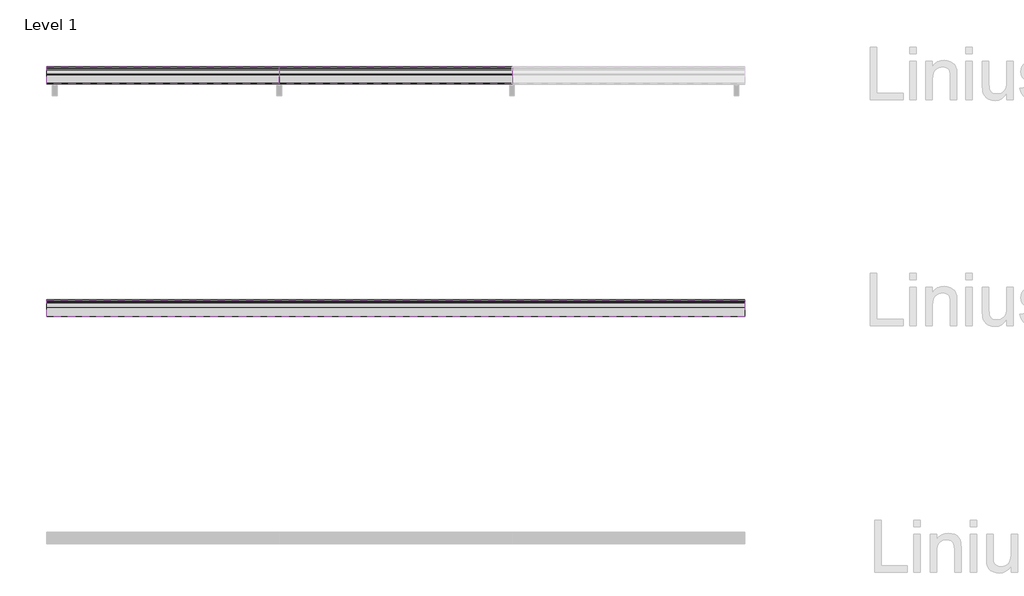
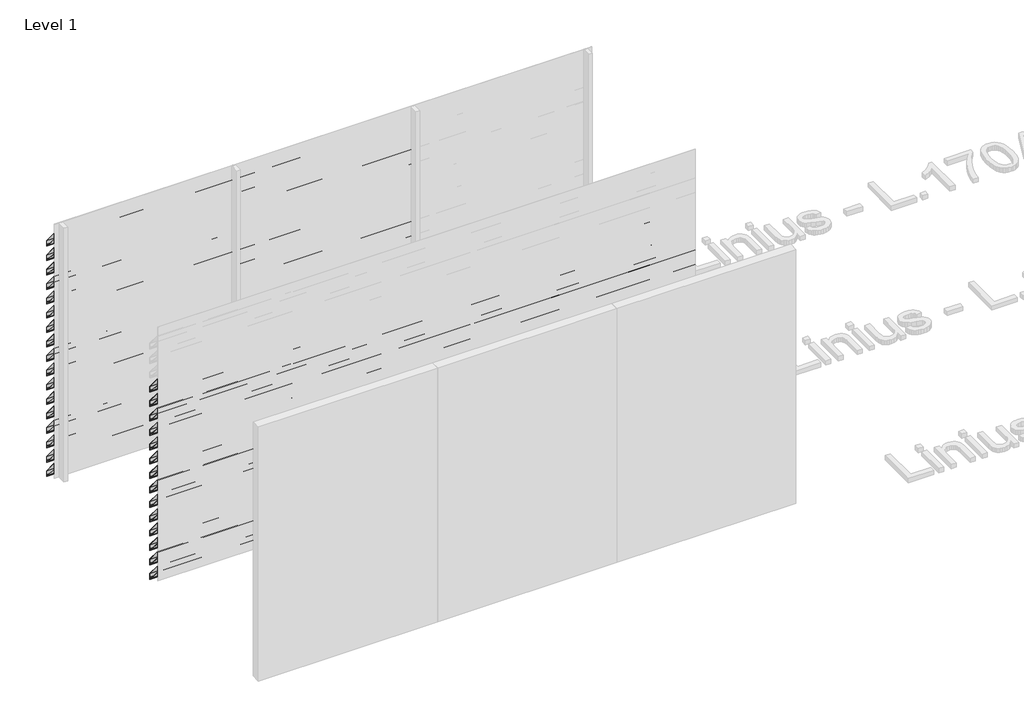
# One storey, part 29 of 121: 48 proxies.
"""IFC4 building model written with IfcOpenShell, lengths in millimetres."""

from ifc_helpers import new_model, si_unit, frame, origin, place, context, project, spatial, polyline, outline, extrude, element, save

model = new_model("IFC4")

# Units and contexts
model_context = context("Model", 3, world=origin())
ifc_project = project(units=[si_unit("LENGTHUNIT", "METRE", prefix="MILLI")], contexts=[model_context])

# Site, building, storey
site = spatial("IfcSite", under=ifc_project)
building = spatial("IfcBuilding", under=site)
storey = spatial("IfcBuildingStorey", under=building, Name="Level 1", Elevation=0.0)

# Proxies
placement = place(None, origin())
element("IfcBuildingElementProxy", 1, Name="Wall Sweeps", at=placement, inside=storey, context=model_context, shape_type="SweptSolid", body=[
    extrude(outline(polyline([(29130.0540136, 2720.0), (29130.0540136, 2651.0), (29127.5540136, 2652.1657691), (29127.5540136, 2665.7059843), (29110.8041465, 2685.6676986), (29100.1189071, 2685.6676986), (28983.0540136, 2825.1802059), (28983.0540136, 2890.0), (28987.4070763, 2890.0), (29130.0540136, 2720.0)]), holes=[polyline([(28986.5210918, 2888.1), (28984.9540136, 2888.1), (28984.9540136, 2825.8717493), (29101.0048916, 2687.5676986), (29111.6901311, 2687.5676986), (29128.1540136, 2667.9468074), (29128.1540136, 2719.3084566), (28986.5210918, 2888.1)])]), frame((44966.6208097, 0.0, 0.0), z_axis=(1.0, 0.0, 0.0), x_axis=(0.0, 1.0, 0.0)), (0.0, 0.0, 1.0), 2000.0),
])
element("IfcBuildingElementProxy", 2, Name="Wall Sweeps", at=placement, inside=storey, context=model_context, shape_type="SweptSolid", body=[
    extrude(outline(polyline([(29130.0540136, 2550.0), (29130.0540136, 2481.0), (29127.5540136, 2482.1657691), (29127.5540136, 2495.7059843), (29110.8041465, 2515.6676986), (29100.1189071, 2515.6676986), (28983.0540136, 2655.1802059), (28983.0540136, 2720.0), (28987.4070763, 2720.0), (29130.0540136, 2550.0)]), holes=[polyline([(28986.5210918, 2718.1), (28984.9540136, 2718.1), (28984.9540136, 2655.8717493), (29101.0048916, 2517.5676986), (29111.6901311, 2517.5676986), (29128.1540136, 2497.9468074), (29128.1540136, 2549.3084566), (28986.5210918, 2718.1)])]), frame((44966.6208097, 0.0, 0.0), z_axis=(1.0, 0.0, 0.0), x_axis=(0.0, 1.0, 0.0)), (0.0, 0.0, 1.0), 2000.0),
])
element("IfcBuildingElementProxy", 3, Name="Wall Sweeps", at=placement, inside=storey, context=model_context, shape_type="SweptSolid", body=[
    extrude(outline(polyline([(29130.0540136, 2380.0), (29130.0540136, 2311.0), (29127.5540136, 2312.1657691), (29127.5540136, 2325.7059843), (29110.8041465, 2345.6676986), (29100.1189071, 2345.6676986), (28983.0540136, 2485.1802059), (28983.0540136, 2550.0), (28987.4070763, 2550.0), (29130.0540136, 2380.0)]), holes=[polyline([(28986.5210918, 2548.1), (28984.9540136, 2548.1), (28984.9540136, 2485.8717493), (29101.0048916, 2347.5676986), (29111.6901311, 2347.5676986), (29128.1540136, 2327.9468074), (29128.1540136, 2379.3084566), (28986.5210918, 2548.1)])]), frame((44966.6208097, 0.0, 0.0), z_axis=(1.0, 0.0, 0.0), x_axis=(0.0, 1.0, 0.0)), (0.0, 0.0, 1.0), 2000.0),
])
element("IfcBuildingElementProxy", 4, Name="Wall Sweeps", at=placement, inside=storey, context=model_context, shape_type="SweptSolid", body=[
    extrude(outline(polyline([(29130.0540136, 2210.0), (29130.0540136, 2141.0), (29127.5540136, 2142.1657691), (29127.5540136, 2155.7059843), (29110.8041465, 2175.6676986), (29100.1189071, 2175.6676986), (28983.0540136, 2315.1802059), (28983.0540136, 2380.0), (28987.4070763, 2380.0), (29130.0540136, 2210.0)]), holes=[polyline([(28986.5210918, 2378.1), (28984.9540136, 2378.1), (28984.9540136, 2315.8717493), (29101.0048916, 2177.5676986), (29111.6901311, 2177.5676986), (29128.1540136, 2157.9468074), (29128.1540136, 2209.3084566), (28986.5210918, 2378.1)])]), frame((44966.6208097, 0.0, 0.0), z_axis=(1.0, 0.0, 0.0), x_axis=(0.0, 1.0, 0.0)), (0.0, 0.0, 1.0), 2000.0),
])
element("IfcBuildingElementProxy", 5, Name="Wall Sweeps", at=placement, inside=storey, context=model_context, shape_type="SweptSolid", body=[
    extrude(outline(polyline([(29130.0540136, 2040.0), (29130.0540136, 1971.0), (29127.5540136, 1972.1657691), (29127.5540136, 1985.7059843), (29110.8041465, 2005.6676986), (29100.1189071, 2005.6676986), (28983.0540136, 2145.1802059), (28983.0540136, 2210.0), (28987.4070763, 2210.0), (29130.0540136, 2040.0)]), holes=[polyline([(28986.5210918, 2208.1), (28984.9540136, 2208.1), (28984.9540136, 2145.8717493), (29101.0048916, 2007.5676986), (29111.6901311, 2007.5676986), (29128.1540136, 1987.9468074), (29128.1540136, 2039.3084566), (28986.5210918, 2208.1)])]), frame((44966.6208097, 0.0, 0.0), z_axis=(1.0, 0.0, 0.0), x_axis=(0.0, 1.0, 0.0)), (0.0, 0.0, 1.0), 2000.0),
])
element("IfcBuildingElementProxy", 6, Name="Wall Sweeps", at=placement, inside=storey, context=model_context, shape_type="SweptSolid", body=[
    extrude(outline(polyline([(29130.0540136, 1870.0), (29130.0540136, 1801.0), (29127.5540136, 1802.1657691), (29127.5540136, 1815.7059843), (29110.8041465, 1835.6676986), (29100.1189071, 1835.6676986), (28983.0540136, 1975.1802059), (28983.0540136, 2040.0), (28987.4070763, 2040.0), (29130.0540136, 1870.0)]), holes=[polyline([(28986.5210918, 2038.1), (28984.9540136, 2038.1), (28984.9540136, 1975.8717493), (29101.0048916, 1837.5676986), (29111.6901311, 1837.5676986), (29128.1540136, 1817.9468074), (29128.1540136, 1869.3084566), (28986.5210918, 2038.1)])]), frame((44966.6208097, 0.0, 0.0), z_axis=(1.0, 0.0, 0.0), x_axis=(0.0, 1.0, 0.0)), (0.0, 0.0, 1.0), 2000.0),
])
element("IfcBuildingElementProxy", 7, Name="Wall Sweeps", at=placement, inside=storey, context=model_context, shape_type="SweptSolid", body=[
    extrude(outline(polyline([(29130.0540136, 1700.0), (29130.0540136, 1631.0), (29127.5540136, 1632.1657691), (29127.5540136, 1645.7059843), (29110.8041465, 1665.6676986), (29100.1189071, 1665.6676986), (28983.0540136, 1805.1802059), (28983.0540136, 1870.0), (28987.4070763, 1870.0), (29130.0540136, 1700.0)]), holes=[polyline([(28986.5210918, 1868.1), (28984.9540136, 1868.1), (28984.9540136, 1805.8717493), (29101.0048916, 1667.5676986), (29111.6901311, 1667.5676986), (29128.1540136, 1647.9468074), (29128.1540136, 1699.3084566), (28986.5210918, 1868.1)])]), frame((44966.6208097, 0.0, 0.0), z_axis=(1.0, 0.0, 0.0), x_axis=(0.0, 1.0, 0.0)), (0.0, 0.0, 1.0), 2000.0),
])
element("IfcBuildingElementProxy", 8, Name="Wall Sweeps", at=placement, inside=storey, context=model_context, shape_type="SweptSolid", body=[
    extrude(outline(polyline([(29130.0540136, 1530.0), (29130.0540136, 1461.0), (29127.5540136, 1462.1657691), (29127.5540136, 1475.7059843), (29110.8041465, 1495.6676986), (29100.1189071, 1495.6676986), (28983.0540136, 1635.1802059), (28983.0540136, 1700.0), (28987.4070763, 1700.0), (29130.0540136, 1530.0)]), holes=[polyline([(28986.5210918, 1698.1), (28984.9540136, 1698.1), (28984.9540136, 1635.8717493), (29101.0048916, 1497.5676986), (29111.6901311, 1497.5676986), (29128.1540136, 1477.9468074), (29128.1540136, 1529.3084566), (28986.5210918, 1698.1)])]), frame((44966.6208097, 0.0, 0.0), z_axis=(1.0, 0.0, 0.0), x_axis=(0.0, 1.0, 0.0)), (0.0, 0.0, 1.0), 2000.0),
])
element("IfcBuildingElementProxy", 9, Name="Wall Sweeps", at=placement, inside=storey, context=model_context, shape_type="SweptSolid", body=[
    extrude(outline(polyline([(29130.0540136, 1360.0), (29130.0540136, 1291.0), (29127.5540136, 1292.1657691), (29127.5540136, 1305.7059843), (29110.8041465, 1325.6676986), (29100.1189071, 1325.6676986), (28983.0540136, 1465.1802059), (28983.0540136, 1530.0), (28987.4070763, 1530.0), (29130.0540136, 1360.0)]), holes=[polyline([(28986.5210918, 1528.1), (28984.9540136, 1528.1), (28984.9540136, 1465.8717493), (29101.0048916, 1327.5676986), (29111.6901311, 1327.5676986), (29128.1540136, 1307.9468074), (29128.1540136, 1359.3084566), (28986.5210918, 1528.1)])]), frame((44966.6208097, 0.0, 0.0), z_axis=(1.0, 0.0, 0.0), x_axis=(0.0, 1.0, 0.0)), (0.0, 0.0, 1.0), 2000.0),
])
element("IfcBuildingElementProxy", 10, Name="Wall Sweeps", at=placement, inside=storey, context=model_context, shape_type="SweptSolid", body=[
    extrude(outline(polyline([(29130.0540136, 1190.0), (29130.0540136, 1121.0), (29127.5540136, 1122.1657691), (29127.5540136, 1135.7059843), (29110.8041465, 1155.6676986), (29100.1189071, 1155.6676986), (28983.0540136, 1295.1802059), (28983.0540136, 1360.0), (28987.4070763, 1360.0), (29130.0540136, 1190.0)]), holes=[polyline([(28986.5210918, 1358.1), (28984.9540136, 1358.1), (28984.9540136, 1295.8717493), (29101.0048916, 1157.5676986), (29111.6901311, 1157.5676986), (29128.1540136, 1137.9468074), (29128.1540136, 1189.3084566), (28986.5210918, 1358.1)])]), frame((44966.6208097, 0.0, 0.0), z_axis=(1.0, 0.0, 0.0), x_axis=(0.0, 1.0, 0.0)), (0.0, 0.0, 1.0), 2000.0),
])
element("IfcBuildingElementProxy", 11, Name="Wall Sweeps", at=placement, inside=storey, context=model_context, shape_type="SweptSolid", body=[
    extrude(outline(polyline([(29130.0540136, 1020.0), (29130.0540136, 951.0), (29127.5540136, 952.1657691), (29127.5540136, 965.7059843), (29110.8041465, 985.6676986), (29100.1189071, 985.6676986), (28983.0540136, 1125.1802059), (28983.0540136, 1190.0), (28987.4070763, 1190.0), (29130.0540136, 1020.0)]), holes=[polyline([(28986.5210918, 1188.1), (28984.9540136, 1188.1), (28984.9540136, 1125.8717493), (29101.0048916, 987.5676986), (29111.6901311, 987.5676986), (29128.1540136, 967.9468074), (29128.1540136, 1019.3084566), (28986.5210918, 1188.1)])]), frame((44966.6208097, 0.0, 0.0), z_axis=(1.0, 0.0, 0.0), x_axis=(0.0, 1.0, 0.0)), (0.0, 0.0, 1.0), 2000.0),
])
element("IfcBuildingElementProxy", 12, Name="Wall Sweeps", at=placement, inside=storey, context=model_context, shape_type="SweptSolid", body=[
    extrude(outline(polyline([(29130.0540136, 850.0), (29130.0540136, 781.0), (29127.5540136, 782.1657691), (29127.5540136, 795.7059843), (29110.8041465, 815.6676986), (29100.1189071, 815.6676986), (28983.0540136, 955.1802059), (28983.0540136, 1020.0), (28987.4070763, 1020.0), (29130.0540136, 850.0)]), holes=[polyline([(28986.5210918, 1018.1), (28984.9540136, 1018.1), (28984.9540136, 955.8717493), (29101.0048916, 817.5676986), (29111.6901311, 817.5676986), (29128.1540136, 797.9468074), (29128.1540136, 849.3084566), (28986.5210918, 1018.1)])]), frame((44966.6208097, 0.0, 0.0), z_axis=(1.0, 0.0, 0.0), x_axis=(0.0, 1.0, 0.0)), (0.0, 0.0, 1.0), 2000.0),
])
element("IfcBuildingElementProxy", 13, Name="Wall Sweeps", at=placement, inside=storey, context=model_context, shape_type="SweptSolid", body=[
    extrude(outline(polyline([(29130.0540136, 680.0), (29130.0540136, 611.0), (29127.5540136, 612.1657691), (29127.5540136, 625.7059843), (29110.8041465, 645.6676986), (29100.1189071, 645.6676986), (28983.0540136, 785.1802059), (28983.0540136, 850.0), (28987.4070763, 850.0), (29130.0540136, 680.0)]), holes=[polyline([(28986.5210918, 848.1), (28984.9540136, 848.1), (28984.9540136, 785.8717493), (29101.0048916, 647.5676986), (29111.6901311, 647.5676986), (29128.1540136, 627.9468074), (29128.1540136, 679.3084566), (28986.5210918, 848.1)])]), frame((44966.6208097, 0.0, 0.0), z_axis=(1.0, 0.0, 0.0), x_axis=(0.0, 1.0, 0.0)), (0.0, 0.0, 1.0), 2000.0),
])
element("IfcBuildingElementProxy", 14, Name="Wall Sweeps", at=placement, inside=storey, context=model_context, shape_type="SweptSolid", body=[
    extrude(outline(polyline([(29130.0540136, 510.0), (29130.0540136, 441.0), (29127.5540136, 442.1657691), (29127.5540136, 455.7059843), (29110.8041465, 475.6676986), (29100.1189071, 475.6676986), (28983.0540136, 615.1802059), (28983.0540136, 680.0), (28987.4070763, 680.0), (29130.0540136, 510.0)]), holes=[polyline([(28986.5210918, 678.1), (28984.9540136, 678.1), (28984.9540136, 615.8717493), (29101.0048916, 477.5676986), (29111.6901311, 477.5676986), (29128.1540136, 457.9468074), (29128.1540136, 509.3084566), (28986.5210918, 678.1)])]), frame((44966.6208097, 0.0, 0.0), z_axis=(1.0, 0.0, 0.0), x_axis=(0.0, 1.0, 0.0)), (0.0, 0.0, 1.0), 2000.0),
])
element("IfcBuildingElementProxy", 15, Name="Wall Sweeps", at=placement, inside=storey, context=model_context, shape_type="SweptSolid", body=[
    extrude(outline(polyline([(29130.0540136, 340.0), (29130.0540136, 271.0), (29127.5540136, 272.1657691), (29127.5540136, 285.7059843), (29110.8041465, 305.6676986), (29100.1189071, 305.6676986), (28983.0540136, 445.1802059), (28983.0540136, 510.0), (28987.4070763, 510.0), (29130.0540136, 340.0)]), holes=[polyline([(28986.5210918, 508.1), (28984.9540136, 508.1), (28984.9540136, 445.8717493), (29101.0048916, 307.5676986), (29111.6901311, 307.5676986), (29128.1540136, 287.9468074), (29128.1540136, 339.3084566), (28986.5210918, 508.1)])]), frame((44966.6208097, 0.0, 0.0), z_axis=(1.0, 0.0, 0.0), x_axis=(0.0, 1.0, 0.0)), (0.0, 0.0, 1.0), 2000.0),
])
element("IfcBuildingElementProxy", 16, Name="Wall Sweeps", at=placement, inside=storey, context=model_context, shape_type="SweptSolid", body=[
    extrude(outline(polyline([(29130.0540136, 170.0), (29130.0540136, 101.0), (29127.5540136, 102.1657691), (29127.5540136, 115.7059843), (29110.8041465, 135.6676986), (29100.1189071, 135.6676986), (28983.0540136, 275.1802059), (28983.0540136, 340.0), (28987.4070763, 340.0), (29130.0540136, 170.0)]), holes=[polyline([(28986.5210918, 338.1), (28984.9540136, 338.1), (28984.9540136, 275.8717493), (29101.0048916, 137.5676986), (29111.6901311, 137.5676986), (29128.1540136, 117.9468074), (29128.1540136, 169.3084566), (28986.5210918, 338.1)])]), frame((44966.6208097, 0.0, 0.0), z_axis=(1.0, 0.0, 0.0), x_axis=(0.0, 1.0, 0.0)), (0.0, 0.0, 1.0), 2000.0),
])
element("IfcBuildingElementProxy", 17, Name="Wall Sweeps", at=placement, inside=storey, context=model_context, shape_type="SweptSolid", body=[
    extrude(outline(polyline([(29130.0540136, 0.0), (29130.0540136, -69.0), (29127.5540136, -67.8342309), (29127.5540136, -54.2940157), (29110.8041465, -34.3323014), (29100.1189071, -34.3323014), (28983.0540136, 105.1802059), (28983.0540136, 170.0), (28987.4070763, 170.0), (29130.0540136, 0.0)]), holes=[polyline([(28986.5210918, 168.1), (28984.9540136, 168.1), (28984.9540136, 105.8717493), (29101.0048916, -32.4323014), (29111.6901311, -32.4323014), (29128.1540136, -52.0531926), (29128.1540136, -0.6915434), (28986.5210918, 168.1)])]), frame((44966.6208097, 0.0, 0.0), z_axis=(1.0, 0.0, 0.0), x_axis=(0.0, 1.0, 0.0)), (0.0, 0.0, 1.0), 2000.0),
])
element("IfcBuildingElementProxy", 18, Name="Wall Sweeps", at=placement, inside=storey, context=model_context, shape_type="SweptSolid", body=[
    extrude(outline(polyline([(29130.0540136, 2720.0), (29130.0540136, 2651.0), (29127.5540136, 2652.1657691), (29127.5540136, 2665.7059843), (29110.8041465, 2685.6676986), (29100.1189071, 2685.6676986), (28983.0540136, 2825.1802059), (28983.0540136, 2890.0), (28987.4070763, 2890.0), (29130.0540136, 2720.0)]), holes=[polyline([(28986.5210918, 2888.1), (28984.9540136, 2888.1), (28984.9540136, 2825.8717493), (29101.0048916, 2687.5676986), (29111.6901311, 2687.5676986), (29128.1540136, 2667.9468074), (29128.1540136, 2719.3084566), (28986.5210918, 2888.1)])]), frame((46966.6208097, 0.0, 0.0), z_axis=(1.0, 0.0, 0.0), x_axis=(0.0, 1.0, 0.0)), (0.0, 0.0, 1.0), 2000.0),
])
element("IfcBuildingElementProxy", 19, Name="Wall Sweeps", at=placement, inside=storey, context=model_context, shape_type="SweptSolid", body=[
    extrude(outline(polyline([(29130.0540136, 2550.0), (29130.0540136, 2481.0), (29127.5540136, 2482.1657691), (29127.5540136, 2495.7059843), (29110.8041465, 2515.6676986), (29100.1189071, 2515.6676986), (28983.0540136, 2655.1802059), (28983.0540136, 2720.0), (28987.4070763, 2720.0), (29130.0540136, 2550.0)]), holes=[polyline([(28986.5210918, 2718.1), (28984.9540136, 2718.1), (28984.9540136, 2655.8717493), (29101.0048916, 2517.5676986), (29111.6901311, 2517.5676986), (29128.1540136, 2497.9468074), (29128.1540136, 2549.3084566), (28986.5210918, 2718.1)])]), frame((46966.6208097, 0.0, 0.0), z_axis=(1.0, 0.0, 0.0), x_axis=(0.0, 1.0, 0.0)), (0.0, 0.0, 1.0), 2000.0),
])
element("IfcBuildingElementProxy", 20, Name="Wall Sweeps", at=placement, inside=storey, context=model_context, shape_type="SweptSolid", body=[
    extrude(outline(polyline([(29130.0540136, 2380.0), (29130.0540136, 2311.0), (29127.5540136, 2312.1657691), (29127.5540136, 2325.7059843), (29110.8041465, 2345.6676986), (29100.1189071, 2345.6676986), (28983.0540136, 2485.1802059), (28983.0540136, 2550.0), (28987.4070763, 2550.0), (29130.0540136, 2380.0)]), holes=[polyline([(28986.5210918, 2548.1), (28984.9540136, 2548.1), (28984.9540136, 2485.8717493), (29101.0048916, 2347.5676986), (29111.6901311, 2347.5676986), (29128.1540136, 2327.9468074), (29128.1540136, 2379.3084566), (28986.5210918, 2548.1)])]), frame((46966.6208097, 0.0, 0.0), z_axis=(1.0, 0.0, 0.0), x_axis=(0.0, 1.0, 0.0)), (0.0, 0.0, 1.0), 2000.0),
])
element("IfcBuildingElementProxy", 21, Name="Wall Sweeps", at=placement, inside=storey, context=model_context, shape_type="SweptSolid", body=[
    extrude(outline(polyline([(29130.0540136, 2210.0), (29130.0540136, 2141.0), (29127.5540136, 2142.1657691), (29127.5540136, 2155.7059843), (29110.8041465, 2175.6676986), (29100.1189071, 2175.6676986), (28983.0540136, 2315.1802059), (28983.0540136, 2380.0), (28987.4070763, 2380.0), (29130.0540136, 2210.0)]), holes=[polyline([(28986.5210918, 2378.1), (28984.9540136, 2378.1), (28984.9540136, 2315.8717493), (29101.0048916, 2177.5676986), (29111.6901311, 2177.5676986), (29128.1540136, 2157.9468074), (29128.1540136, 2209.3084566), (28986.5210918, 2378.1)])]), frame((46966.6208097, 0.0, 0.0), z_axis=(1.0, 0.0, 0.0), x_axis=(0.0, 1.0, 0.0)), (0.0, 0.0, 1.0), 2000.0),
])
element("IfcBuildingElementProxy", 22, Name="Wall Sweeps", at=placement, inside=storey, context=model_context, shape_type="SweptSolid", body=[
    extrude(outline(polyline([(29130.0540136, 2040.0), (29130.0540136, 1971.0), (29127.5540136, 1972.1657691), (29127.5540136, 1985.7059843), (29110.8041465, 2005.6676986), (29100.1189071, 2005.6676986), (28983.0540136, 2145.1802059), (28983.0540136, 2210.0), (28987.4070763, 2210.0), (29130.0540136, 2040.0)]), holes=[polyline([(28986.5210918, 2208.1), (28984.9540136, 2208.1), (28984.9540136, 2145.8717493), (29101.0048916, 2007.5676986), (29111.6901311, 2007.5676986), (29128.1540136, 1987.9468074), (29128.1540136, 2039.3084566), (28986.5210918, 2208.1)])]), frame((46966.6208097, 0.0, 0.0), z_axis=(1.0, 0.0, 0.0), x_axis=(0.0, 1.0, 0.0)), (0.0, 0.0, 1.0), 2000.0),
])
element("IfcBuildingElementProxy", 23, Name="Wall Sweeps", at=placement, inside=storey, context=model_context, shape_type="SweptSolid", body=[
    extrude(outline(polyline([(29130.0540136, 1870.0), (29130.0540136, 1801.0), (29127.5540136, 1802.1657691), (29127.5540136, 1815.7059843), (29110.8041465, 1835.6676986), (29100.1189071, 1835.6676986), (28983.0540136, 1975.1802059), (28983.0540136, 2040.0), (28987.4070763, 2040.0), (29130.0540136, 1870.0)]), holes=[polyline([(28986.5210918, 2038.1), (28984.9540136, 2038.1), (28984.9540136, 1975.8717493), (29101.0048916, 1837.5676986), (29111.6901311, 1837.5676986), (29128.1540136, 1817.9468074), (29128.1540136, 1869.3084566), (28986.5210918, 2038.1)])]), frame((46966.6208097, 0.0, 0.0), z_axis=(1.0, 0.0, 0.0), x_axis=(0.0, 1.0, 0.0)), (0.0, 0.0, 1.0), 2000.0),
])
element("IfcBuildingElementProxy", 24, Name="Wall Sweeps", at=placement, inside=storey, context=model_context, shape_type="SweptSolid", body=[
    extrude(outline(polyline([(29130.0540136, 1700.0), (29130.0540136, 1631.0), (29127.5540136, 1632.1657691), (29127.5540136, 1645.7059843), (29110.8041465, 1665.6676986), (29100.1189071, 1665.6676986), (28983.0540136, 1805.1802059), (28983.0540136, 1870.0), (28987.4070763, 1870.0), (29130.0540136, 1700.0)]), holes=[polyline([(28986.5210918, 1868.1), (28984.9540136, 1868.1), (28984.9540136, 1805.8717493), (29101.0048916, 1667.5676986), (29111.6901311, 1667.5676986), (29128.1540136, 1647.9468074), (29128.1540136, 1699.3084566), (28986.5210918, 1868.1)])]), frame((46966.6208097, 0.0, 0.0), z_axis=(1.0, 0.0, 0.0), x_axis=(0.0, 1.0, 0.0)), (0.0, 0.0, 1.0), 2000.0),
])
element("IfcBuildingElementProxy", 25, Name="Wall Sweeps", at=placement, inside=storey, context=model_context, shape_type="SweptSolid", body=[
    extrude(outline(polyline([(29130.0540136, 1530.0), (29130.0540136, 1461.0), (29127.5540136, 1462.1657691), (29127.5540136, 1475.7059843), (29110.8041465, 1495.6676986), (29100.1189071, 1495.6676986), (28983.0540136, 1635.1802059), (28983.0540136, 1700.0), (28987.4070763, 1700.0), (29130.0540136, 1530.0)]), holes=[polyline([(28986.5210918, 1698.1), (28984.9540136, 1698.1), (28984.9540136, 1635.8717493), (29101.0048916, 1497.5676986), (29111.6901311, 1497.5676986), (29128.1540136, 1477.9468074), (29128.1540136, 1529.3084566), (28986.5210918, 1698.1)])]), frame((46966.6208097, 0.0, 0.0), z_axis=(1.0, 0.0, 0.0), x_axis=(0.0, 1.0, 0.0)), (0.0, 0.0, 1.0), 2000.0),
])
element("IfcBuildingElementProxy", 26, Name="Wall Sweeps", at=placement, inside=storey, context=model_context, shape_type="SweptSolid", body=[
    extrude(outline(polyline([(29130.0540136, 1360.0), (29130.0540136, 1291.0), (29127.5540136, 1292.1657691), (29127.5540136, 1305.7059843), (29110.8041465, 1325.6676986), (29100.1189071, 1325.6676986), (28983.0540136, 1465.1802059), (28983.0540136, 1530.0), (28987.4070763, 1530.0), (29130.0540136, 1360.0)]), holes=[polyline([(28986.5210918, 1528.1), (28984.9540136, 1528.1), (28984.9540136, 1465.8717493), (29101.0048916, 1327.5676986), (29111.6901311, 1327.5676986), (29128.1540136, 1307.9468074), (29128.1540136, 1359.3084566), (28986.5210918, 1528.1)])]), frame((46966.6208097, 0.0, 0.0), z_axis=(1.0, 0.0, 0.0), x_axis=(0.0, 1.0, 0.0)), (0.0, 0.0, 1.0), 2000.0),
])
element("IfcBuildingElementProxy", 27, Name="Wall Sweeps", at=placement, inside=storey, context=model_context, shape_type="SweptSolid", body=[
    extrude(outline(polyline([(29130.0540136, 1190.0), (29130.0540136, 1121.0), (29127.5540136, 1122.1657691), (29127.5540136, 1135.7059843), (29110.8041465, 1155.6676986), (29100.1189071, 1155.6676986), (28983.0540136, 1295.1802059), (28983.0540136, 1360.0), (28987.4070763, 1360.0), (29130.0540136, 1190.0)]), holes=[polyline([(28986.5210918, 1358.1), (28984.9540136, 1358.1), (28984.9540136, 1295.8717493), (29101.0048916, 1157.5676986), (29111.6901311, 1157.5676986), (29128.1540136, 1137.9468074), (29128.1540136, 1189.3084566), (28986.5210918, 1358.1)])]), frame((46966.6208097, 0.0, 0.0), z_axis=(1.0, 0.0, 0.0), x_axis=(0.0, 1.0, 0.0)), (0.0, 0.0, 1.0), 2000.0),
])
element("IfcBuildingElementProxy", 28, Name="Wall Sweeps", at=placement, inside=storey, context=model_context, shape_type="SweptSolid", body=[
    extrude(outline(polyline([(29130.0540136, 1020.0), (29130.0540136, 951.0), (29127.5540136, 952.1657691), (29127.5540136, 965.7059843), (29110.8041465, 985.6676986), (29100.1189071, 985.6676986), (28983.0540136, 1125.1802059), (28983.0540136, 1190.0), (28987.4070763, 1190.0), (29130.0540136, 1020.0)]), holes=[polyline([(28986.5210918, 1188.1), (28984.9540136, 1188.1), (28984.9540136, 1125.8717493), (29101.0048916, 987.5676986), (29111.6901311, 987.5676986), (29128.1540136, 967.9468074), (29128.1540136, 1019.3084566), (28986.5210918, 1188.1)])]), frame((46966.6208097, 0.0, 0.0), z_axis=(1.0, 0.0, 0.0), x_axis=(0.0, 1.0, 0.0)), (0.0, 0.0, 1.0), 2000.0),
])
element("IfcBuildingElementProxy", 29, Name="Wall Sweeps", at=placement, inside=storey, context=model_context, shape_type="SweptSolid", body=[
    extrude(outline(polyline([(29130.0540136, 850.0), (29130.0540136, 781.0), (29127.5540136, 782.1657691), (29127.5540136, 795.7059843), (29110.8041465, 815.6676986), (29100.1189071, 815.6676986), (28983.0540136, 955.1802059), (28983.0540136, 1020.0), (28987.4070763, 1020.0), (29130.0540136, 850.0)]), holes=[polyline([(28986.5210918, 1018.1), (28984.9540136, 1018.1), (28984.9540136, 955.8717493), (29101.0048916, 817.5676986), (29111.6901311, 817.5676986), (29128.1540136, 797.9468074), (29128.1540136, 849.3084566), (28986.5210918, 1018.1)])]), frame((46966.6208097, 0.0, 0.0), z_axis=(1.0, 0.0, 0.0), x_axis=(0.0, 1.0, 0.0)), (0.0, 0.0, 1.0), 2000.0),
])
element("IfcBuildingElementProxy", 30, Name="Wall Sweeps", at=placement, inside=storey, context=model_context, shape_type="SweptSolid", body=[
    extrude(outline(polyline([(29130.0540136, 680.0), (29130.0540136, 611.0), (29127.5540136, 612.1657691), (29127.5540136, 625.7059843), (29110.8041465, 645.6676986), (29100.1189071, 645.6676986), (28983.0540136, 785.1802059), (28983.0540136, 850.0), (28987.4070763, 850.0), (29130.0540136, 680.0)]), holes=[polyline([(28986.5210918, 848.1), (28984.9540136, 848.1), (28984.9540136, 785.8717493), (29101.0048916, 647.5676986), (29111.6901311, 647.5676986), (29128.1540136, 627.9468074), (29128.1540136, 679.3084566), (28986.5210918, 848.1)])]), frame((46966.6208097, 0.0, 0.0), z_axis=(1.0, 0.0, 0.0), x_axis=(0.0, 1.0, 0.0)), (0.0, 0.0, 1.0), 2000.0),
])
element("IfcBuildingElementProxy", 31, Name="Wall Sweeps", at=placement, inside=storey, context=model_context, shape_type="SweptSolid", body=[
    extrude(outline(polyline([(29130.0540136, 510.0), (29130.0540136, 441.0), (29127.5540136, 442.1657691), (29127.5540136, 455.7059843), (29110.8041465, 475.6676986), (29100.1189071, 475.6676986), (28983.0540136, 615.1802059), (28983.0540136, 680.0), (28987.4070763, 680.0), (29130.0540136, 510.0)]), holes=[polyline([(28986.5210918, 678.1), (28984.9540136, 678.1), (28984.9540136, 615.8717493), (29101.0048916, 477.5676986), (29111.6901311, 477.5676986), (29128.1540136, 457.9468074), (29128.1540136, 509.3084566), (28986.5210918, 678.1)])]), frame((46966.6208097, 0.0, 0.0), z_axis=(1.0, 0.0, 0.0), x_axis=(0.0, 1.0, 0.0)), (0.0, 0.0, 1.0), 2000.0),
])
element("IfcBuildingElementProxy", 32, Name="Wall Sweeps", at=placement, inside=storey, context=model_context, shape_type="SweptSolid", body=[
    extrude(outline(polyline([(29130.0540136, 340.0), (29130.0540136, 271.0), (29127.5540136, 272.1657691), (29127.5540136, 285.7059843), (29110.8041465, 305.6676986), (29100.1189071, 305.6676986), (28983.0540136, 445.1802059), (28983.0540136, 510.0), (28987.4070763, 510.0), (29130.0540136, 340.0)]), holes=[polyline([(28986.5210918, 508.1), (28984.9540136, 508.1), (28984.9540136, 445.8717493), (29101.0048916, 307.5676986), (29111.6901311, 307.5676986), (29128.1540136, 287.9468074), (29128.1540136, 339.3084566), (28986.5210918, 508.1)])]), frame((46966.6208097, 0.0, 0.0), z_axis=(1.0, 0.0, 0.0), x_axis=(0.0, 1.0, 0.0)), (0.0, 0.0, 1.0), 2000.0),
])
element("IfcBuildingElementProxy", 33, Name="Wall Sweeps", at=placement, inside=storey, context=model_context, shape_type="SweptSolid", body=[
    extrude(outline(polyline([(29130.0540136, 170.0), (29130.0540136, 101.0), (29127.5540136, 102.1657691), (29127.5540136, 115.7059843), (29110.8041465, 135.6676986), (29100.1189071, 135.6676986), (28983.0540136, 275.1802059), (28983.0540136, 340.0), (28987.4070763, 340.0), (29130.0540136, 170.0)]), holes=[polyline([(28986.5210918, 338.1), (28984.9540136, 338.1), (28984.9540136, 275.8717493), (29101.0048916, 137.5676986), (29111.6901311, 137.5676986), (29128.1540136, 117.9468074), (29128.1540136, 169.3084566), (28986.5210918, 338.1)])]), frame((46966.6208097, 0.0, 0.0), z_axis=(1.0, 0.0, 0.0), x_axis=(0.0, 1.0, 0.0)), (0.0, 0.0, 1.0), 2000.0),
])
element("IfcBuildingElementProxy", 34, Name="Wall Sweeps", at=placement, inside=storey, context=model_context, shape_type="SweptSolid", body=[
    extrude(outline(polyline([(29130.0540136, 0.0), (29130.0540136, -69.0), (29127.5540136, -67.8342309), (29127.5540136, -54.2940157), (29110.8041465, -34.3323014), (29100.1189071, -34.3323014), (28983.0540136, 105.1802059), (28983.0540136, 170.0), (28987.4070763, 170.0), (29130.0540136, 0.0)]), holes=[polyline([(28986.5210918, 168.1), (28984.9540136, 168.1), (28984.9540136, 105.8717493), (29101.0048916, -32.4323014), (29111.6901311, -32.4323014), (29128.1540136, -52.0531926), (29128.1540136, -0.6915434), (28986.5210918, 168.1)])]), frame((46966.6208097, 0.0, 0.0), z_axis=(1.0, 0.0, 0.0), x_axis=(0.0, 1.0, 0.0)), (0.0, 0.0, 1.0), 2000.0),
])
element("IfcBuildingElementProxy", 35, Name="Wall Sweeps", at=placement, inside=storey, context=model_context, shape_type="SweptSolid", body=[
    extrude(outline(polyline([(27130.0540136, 2210.0), (27130.0540136, 2141.0), (27127.5540136, 2142.1657691), (27127.5540136, 2155.7059843), (27110.8041465, 2175.6676986), (27100.1189071, 2175.6676986), (26983.0540136, 2315.1802059), (26983.0540136, 2380.0), (26987.4070763, 2380.0), (27130.0540136, 2210.0)]), holes=[polyline([(26986.5210918, 2378.1), (26984.9540136, 2378.1), (26984.9540136, 2315.8717493), (27101.0048916, 2177.5676986), (27111.6901311, 2177.5676986), (27128.1540136, 2157.9468074), (27128.1540136, 2209.3084566), (26986.5210918, 2378.1)])]), frame((44966.6208097, 0.0, 0.0), z_axis=(1.0, 0.0, 0.0), x_axis=(0.0, 1.0, 0.0)), (0.0, 0.0, 1.0), 6000.0),
])
element("IfcBuildingElementProxy", 36, Name="Wall Sweeps", at=placement, inside=storey, context=model_context, shape_type="SweptSolid", body=[
    extrude(outline(polyline([(27130.0540136, 2040.0), (27130.0540136, 1971.0), (27127.5540136, 1972.1657691), (27127.5540136, 1985.7059843), (27110.8041465, 2005.6676986), (27100.1189071, 2005.6676986), (26983.0540136, 2145.1802059), (26983.0540136, 2210.0), (26987.4070763, 2210.0), (27130.0540136, 2040.0)]), holes=[polyline([(26986.5210918, 2208.1), (26984.9540136, 2208.1), (26984.9540136, 2145.8717493), (27101.0048916, 2007.5676986), (27111.6901311, 2007.5676986), (27128.1540136, 1987.9468074), (27128.1540136, 2039.3084566), (26986.5210918, 2208.1)])]), frame((44966.6208097, 0.0, 0.0), z_axis=(1.0, 0.0, 0.0), x_axis=(0.0, 1.0, 0.0)), (0.0, 0.0, 1.0), 6000.0),
])
element("IfcBuildingElementProxy", 37, Name="Wall Sweeps", at=placement, inside=storey, context=model_context, shape_type="SweptSolid", body=[
    extrude(outline(polyline([(27130.0540136, 1870.0), (27130.0540136, 1801.0), (27127.5540136, 1802.1657691), (27127.5540136, 1815.7059843), (27110.8041465, 1835.6676986), (27100.1189071, 1835.6676986), (26983.0540136, 1975.1802059), (26983.0540136, 2040.0), (26987.4070763, 2040.0), (27130.0540136, 1870.0)]), holes=[polyline([(26986.5210918, 2038.1), (26984.9540136, 2038.1), (26984.9540136, 1975.8717493), (27101.0048916, 1837.5676986), (27111.6901311, 1837.5676986), (27128.1540136, 1817.9468074), (27128.1540136, 1869.3084566), (26986.5210918, 2038.1)])]), frame((44966.6208097, 0.0, 0.0), z_axis=(1.0, 0.0, 0.0), x_axis=(0.0, 1.0, 0.0)), (0.0, 0.0, 1.0), 6000.0),
])
element("IfcBuildingElementProxy", 38, Name="Wall Sweeps", at=placement, inside=storey, context=model_context, shape_type="SweptSolid", body=[
    extrude(outline(polyline([(27130.0540136, 1700.0), (27130.0540136, 1631.0), (27127.5540136, 1632.1657691), (27127.5540136, 1645.7059843), (27110.8041465, 1665.6676986), (27100.1189071, 1665.6676986), (26983.0540136, 1805.1802059), (26983.0540136, 1870.0), (26987.4070763, 1870.0), (27130.0540136, 1700.0)]), holes=[polyline([(26986.5210918, 1868.1), (26984.9540136, 1868.1), (26984.9540136, 1805.8717493), (27101.0048916, 1667.5676986), (27111.6901311, 1667.5676986), (27128.1540136, 1647.9468074), (27128.1540136, 1699.3084566), (26986.5210918, 1868.1)])]), frame((44966.6208097, 0.0, 0.0), z_axis=(1.0, 0.0, 0.0), x_axis=(0.0, 1.0, 0.0)), (0.0, 0.0, 1.0), 6000.0),
])
element("IfcBuildingElementProxy", 39, Name="Wall Sweeps", at=placement, inside=storey, context=model_context, shape_type="SweptSolid", body=[
    extrude(outline(polyline([(27130.0540136, 1530.0), (27130.0540136, 1461.0), (27127.5540136, 1462.1657691), (27127.5540136, 1475.7059843), (27110.8041465, 1495.6676986), (27100.1189071, 1495.6676986), (26983.0540136, 1635.1802059), (26983.0540136, 1700.0), (26987.4070763, 1700.0), (27130.0540136, 1530.0)]), holes=[polyline([(26986.5210918, 1698.1), (26984.9540136, 1698.1), (26984.9540136, 1635.8717493), (27101.0048916, 1497.5676986), (27111.6901311, 1497.5676986), (27128.1540136, 1477.9468074), (27128.1540136, 1529.3084566), (26986.5210918, 1698.1)])]), frame((44966.6208097, 0.0, 0.0), z_axis=(1.0, 0.0, 0.0), x_axis=(0.0, 1.0, 0.0)), (0.0, 0.0, 1.0), 6000.0),
])
element("IfcBuildingElementProxy", 40, Name="Wall Sweeps", at=placement, inside=storey, context=model_context, shape_type="SweptSolid", body=[
    extrude(outline(polyline([(27130.0540136, 1360.0), (27130.0540136, 1291.0), (27127.5540136, 1292.1657691), (27127.5540136, 1305.7059843), (27110.8041465, 1325.6676986), (27100.1189071, 1325.6676986), (26983.0540136, 1465.1802059), (26983.0540136, 1530.0), (26987.4070763, 1530.0), (27130.0540136, 1360.0)]), holes=[polyline([(26986.5210918, 1528.1), (26984.9540136, 1528.1), (26984.9540136, 1465.8717493), (27101.0048916, 1327.5676986), (27111.6901311, 1327.5676986), (27128.1540136, 1307.9468074), (27128.1540136, 1359.3084566), (26986.5210918, 1528.1)])]), frame((44966.6208097, 0.0, 0.0), z_axis=(1.0, 0.0, 0.0), x_axis=(0.0, 1.0, 0.0)), (0.0, 0.0, 1.0), 6000.0),
])
element("IfcBuildingElementProxy", 41, Name="Wall Sweeps", at=placement, inside=storey, context=model_context, shape_type="SweptSolid", body=[
    extrude(outline(polyline([(27130.0540136, 1190.0), (27130.0540136, 1121.0), (27127.5540136, 1122.1657691), (27127.5540136, 1135.7059843), (27110.8041465, 1155.6676986), (27100.1189071, 1155.6676986), (26983.0540136, 1295.1802059), (26983.0540136, 1360.0), (26987.4070763, 1360.0), (27130.0540136, 1190.0)]), holes=[polyline([(26986.5210918, 1358.1), (26984.9540136, 1358.1), (26984.9540136, 1295.8717493), (27101.0048916, 1157.5676986), (27111.6901311, 1157.5676986), (27128.1540136, 1137.9468074), (27128.1540136, 1189.3084566), (26986.5210918, 1358.1)])]), frame((44966.6208097, 0.0, 0.0), z_axis=(1.0, 0.0, 0.0), x_axis=(0.0, 1.0, 0.0)), (0.0, 0.0, 1.0), 6000.0),
])
element("IfcBuildingElementProxy", 42, Name="Wall Sweeps", at=placement, inside=storey, context=model_context, shape_type="SweptSolid", body=[
    extrude(outline(polyline([(27130.0540136, 1020.0), (27130.0540136, 951.0), (27127.5540136, 952.1657691), (27127.5540136, 965.7059843), (27110.8041465, 985.6676986), (27100.1189071, 985.6676986), (26983.0540136, 1125.1802059), (26983.0540136, 1190.0), (26987.4070763, 1190.0), (27130.0540136, 1020.0)]), holes=[polyline([(26986.5210918, 1188.1), (26984.9540136, 1188.1), (26984.9540136, 1125.8717493), (27101.0048916, 987.5676986), (27111.6901311, 987.5676986), (27128.1540136, 967.9468074), (27128.1540136, 1019.3084566), (26986.5210918, 1188.1)])]), frame((44966.6208097, 0.0, 0.0), z_axis=(1.0, 0.0, 0.0), x_axis=(0.0, 1.0, 0.0)), (0.0, 0.0, 1.0), 6000.0),
])
element("IfcBuildingElementProxy", 43, Name="Wall Sweeps", at=placement, inside=storey, context=model_context, shape_type="SweptSolid", body=[
    extrude(outline(polyline([(27130.0540136, 850.0), (27130.0540136, 781.0), (27127.5540136, 782.1657691), (27127.5540136, 795.7059843), (27110.8041465, 815.6676986), (27100.1189071, 815.6676986), (26983.0540136, 955.1802059), (26983.0540136, 1020.0), (26987.4070763, 1020.0), (27130.0540136, 850.0)]), holes=[polyline([(26986.5210918, 1018.1), (26984.9540136, 1018.1), (26984.9540136, 955.8717493), (27101.0048916, 817.5676986), (27111.6901311, 817.5676986), (27128.1540136, 797.9468074), (27128.1540136, 849.3084566), (26986.5210918, 1018.1)])]), frame((44966.6208097, 0.0, 0.0), z_axis=(1.0, 0.0, 0.0), x_axis=(0.0, 1.0, 0.0)), (0.0, 0.0, 1.0), 6000.0),
])
element("IfcBuildingElementProxy", 44, Name="Wall Sweeps", at=placement, inside=storey, context=model_context, shape_type="SweptSolid", body=[
    extrude(outline(polyline([(27130.0540136, 680.0), (27130.0540136, 611.0), (27127.5540136, 612.1657691), (27127.5540136, 625.7059843), (27110.8041465, 645.6676986), (27100.1189071, 645.6676986), (26983.0540136, 785.1802059), (26983.0540136, 850.0), (26987.4070763, 850.0), (27130.0540136, 680.0)]), holes=[polyline([(26986.5210918, 848.1), (26984.9540136, 848.1), (26984.9540136, 785.8717493), (27101.0048916, 647.5676986), (27111.6901311, 647.5676986), (27128.1540136, 627.9468074), (27128.1540136, 679.3084566), (26986.5210918, 848.1)])]), frame((44966.6208097, 0.0, 0.0), z_axis=(1.0, 0.0, 0.0), x_axis=(0.0, 1.0, 0.0)), (0.0, 0.0, 1.0), 6000.0),
])
element("IfcBuildingElementProxy", 45, Name="Wall Sweeps", at=placement, inside=storey, context=model_context, shape_type="SweptSolid", body=[
    extrude(outline(polyline([(27130.0540136, 510.0), (27130.0540136, 441.0), (27127.5540136, 442.1657691), (27127.5540136, 455.7059843), (27110.8041465, 475.6676986), (27100.1189071, 475.6676986), (26983.0540136, 615.1802059), (26983.0540136, 680.0), (26987.4070763, 680.0), (27130.0540136, 510.0)]), holes=[polyline([(26986.5210918, 678.1), (26984.9540136, 678.1), (26984.9540136, 615.8717493), (27101.0048916, 477.5676986), (27111.6901311, 477.5676986), (27128.1540136, 457.9468074), (27128.1540136, 509.3084566), (26986.5210918, 678.1)])]), frame((44966.6208097, 0.0, 0.0), z_axis=(1.0, 0.0, 0.0), x_axis=(0.0, 1.0, 0.0)), (0.0, 0.0, 1.0), 6000.0),
])
element("IfcBuildingElementProxy", 46, Name="Wall Sweeps", at=placement, inside=storey, context=model_context, shape_type="SweptSolid", body=[
    extrude(outline(polyline([(27130.0540136, 340.0), (27130.0540136, 271.0), (27127.5540136, 272.1657691), (27127.5540136, 285.7059843), (27110.8041465, 305.6676986), (27100.1189071, 305.6676986), (26983.0540136, 445.1802059), (26983.0540136, 510.0), (26987.4070763, 510.0), (27130.0540136, 340.0)]), holes=[polyline([(26986.5210918, 508.1), (26984.9540136, 508.1), (26984.9540136, 445.8717493), (27101.0048916, 307.5676986), (27111.6901311, 307.5676986), (27128.1540136, 287.9468074), (27128.1540136, 339.3084566), (26986.5210918, 508.1)])]), frame((44966.6208097, 0.0, 0.0), z_axis=(1.0, 0.0, 0.0), x_axis=(0.0, 1.0, 0.0)), (0.0, 0.0, 1.0), 6000.0),
])
element("IfcBuildingElementProxy", 47, Name="Wall Sweeps", at=placement, inside=storey, context=model_context, shape_type="SweptSolid", body=[
    extrude(outline(polyline([(27130.0540136, 170.0), (27130.0540136, 101.0), (27127.5540136, 102.1657691), (27127.5540136, 115.7059843), (27110.8041465, 135.6676986), (27100.1189071, 135.6676986), (26983.0540136, 275.1802059), (26983.0540136, 340.0), (26987.4070763, 340.0), (27130.0540136, 170.0)]), holes=[polyline([(26986.5210918, 338.1), (26984.9540136, 338.1), (26984.9540136, 275.8717493), (27101.0048916, 137.5676986), (27111.6901311, 137.5676986), (27128.1540136, 117.9468074), (27128.1540136, 169.3084566), (26986.5210918, 338.1)])]), frame((44966.6208097, 0.0, 0.0), z_axis=(1.0, 0.0, 0.0), x_axis=(0.0, 1.0, 0.0)), (0.0, 0.0, 1.0), 6000.0),
])
element("IfcBuildingElementProxy", 48, Name="Wall Sweeps", at=placement, inside=storey, context=model_context, shape_type="SweptSolid", body=[
    extrude(outline(polyline([(27130.0540136, 0.0), (27130.0540136, -69.0), (27127.5540136, -67.8342309), (27127.5540136, -54.2940157), (27110.8041465, -34.3323014), (27100.1189071, -34.3323014), (26983.0540136, 105.1802059), (26983.0540136, 170.0), (26987.4070763, 170.0), (27130.0540136, 0.0)]), holes=[polyline([(26986.5210918, 168.1), (26984.9540136, 168.1), (26984.9540136, 105.8717493), (27101.0048916, -32.4323014), (27111.6901311, -32.4323014), (27128.1540136, -52.0531926), (27128.1540136, -0.6915434), (26986.5210918, 168.1)])]), frame((44966.6208097, 0.0, 0.0), z_axis=(1.0, 0.0, 0.0), x_axis=(0.0, 1.0, 0.0)), (0.0, 0.0, 1.0), 6000.0),
])

save(model, "model.ifc")
